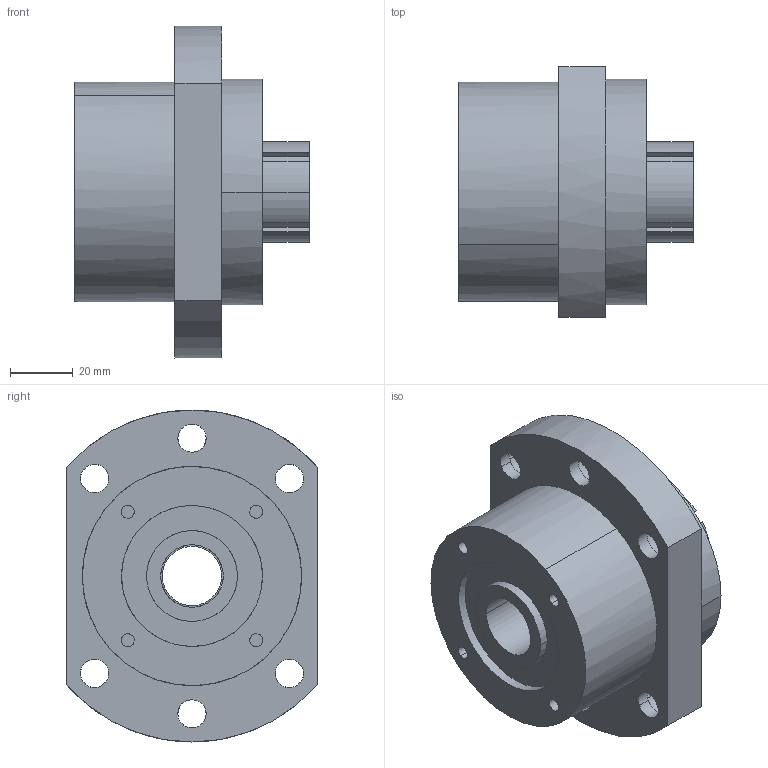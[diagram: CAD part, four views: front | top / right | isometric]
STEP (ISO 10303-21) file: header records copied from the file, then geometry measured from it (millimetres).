
FILE_DESCRIPTION(('CATIA V5 STEP Exchange'),'2;1');
FILE_NAME('D:\서포트 완성도면\WBK\WBK20DF.stp','2014-03-26T10:24:46+00:00',('none'),('none'),'CATIA Version 5 Release 18 GA (IN-10)','CATIA V5 STEP AP203','none');
FILE_SCHEMA(('CONFIG_CONTROL_DESIGN'));
Length unit declared in the file: millimetre
Products named in the file (1): WBK20DF
Assembly tree (4 placements, depth 2):
  WBK20DF
    #56
    #3764  x2
    #4040
Bounding box: 75 x 80 x 106 mm (x, y, z)
Volume: 260062.6 mm3; surface area: 47715.5 mm2
Topology: 4 solids, 4 shells, 114 faces, 258 edges, 172 vertices
Faces by surface type: cylinder 72, plane 42
Entity records: 4819 total; most frequent: CARTESIAN_POINT 2489, ORIENTED_EDGE 492, DIRECTION 344, EDGE_CURVE 246, VERTEX_POINT 164, EDGE_LOOP 146, AXIS2_PLACEMENT_3D 133, VECTOR 110
